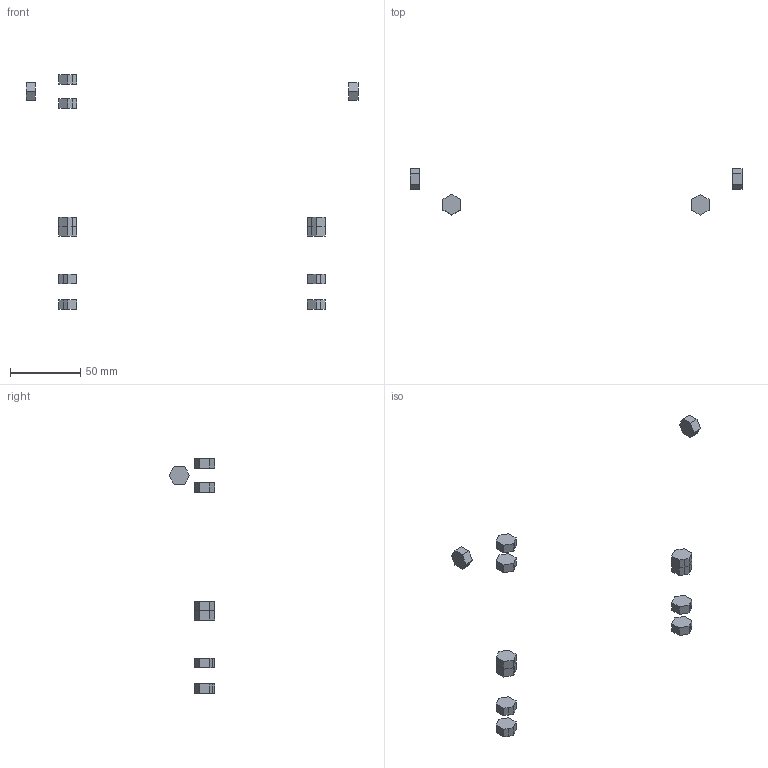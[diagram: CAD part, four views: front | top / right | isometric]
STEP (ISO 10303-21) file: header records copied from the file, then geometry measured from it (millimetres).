
FILE_DESCRIPTION(/* description */ (''),/* implementation_level */ '2;1');
FILE_NAME(/* name */ '240803-DIYUTM-8mmNuts',/* time_stamp */ '2024-08-03T10:08:55+02:00',/* author */ (''),/* organization */ (''),/* preprocessor_version */ 'ST-DEVELOPER v16.5',/* originating_system */ 'Rhino 7.37',/* authorisation */ '');
FILE_SCHEMA (('CONFIG_CONTROL_DESIGN'));
Length unit declared in the file: millimetre
Products named in the file (1): Document
Bounding box: 236.52 x 32.76 x 167.29 mm (x, y, z)
Volume: 11308.8 mm3; surface area: 6914.1 mm2
Topology: 12 solids, 12 shells, 108 faces, 252 edges, 168 vertices
Faces by surface type: plane 108
Entity records: 3416 total; most frequent: CARTESIAN_POINT 1478, ORIENTED_EDGE 504, EDGE_CURVE 252, B_SPLINE_CURVE_WITH_KNOTS 252, VERTEX_POINT 168, DIRECTION 112, AXIS2_PLACEMENT_3D 110, ADVANCED_FACE 108
